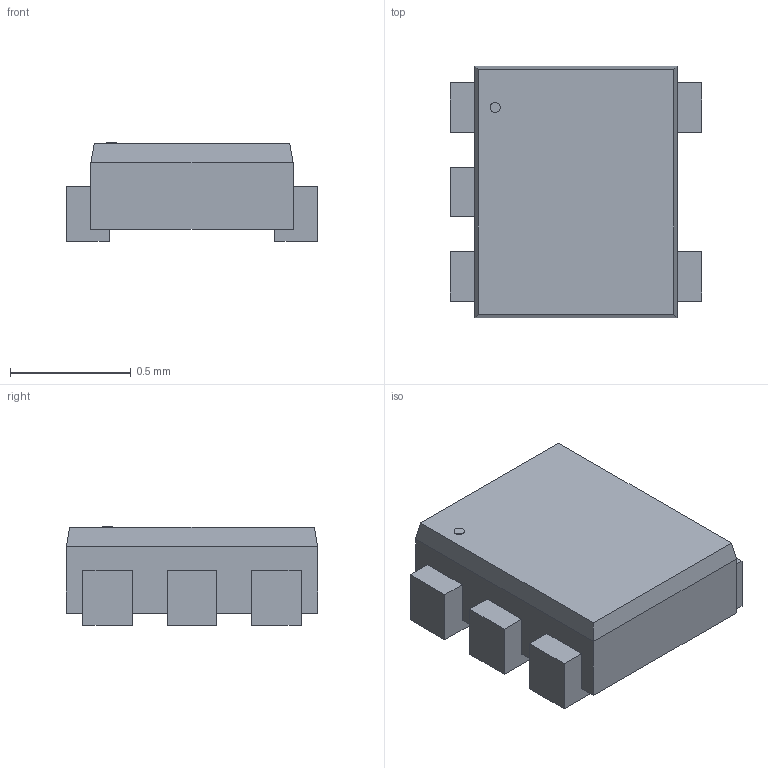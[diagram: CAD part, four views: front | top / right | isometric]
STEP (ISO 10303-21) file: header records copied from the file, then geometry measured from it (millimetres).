
FILE_DESCRIPTION(('STEP AP214'),'1');
FILE_NAME('SOD-953_ONS','2025-03-26T09:04:38',(''),(''),'','','');
FILE_SCHEMA(('AUTOMOTIVE_DESIGN'));
Length unit declared in the file: millimetre
Products named in the file (1): product
Bounding box: 1.04 x 1.04 x 0.41 mm (x, y, z)
Volume: 0.3 mm3; surface area: 4.1 mm2
Topology: 7 solids, 7 shells, 53 faces, 113 edges, 74 vertices
Faces by surface type: plane 52, cylinder 1
Full cylindrical faces by diameter (mm): 0.042 x1
Entity records: 1495 total; most frequent: DIRECTION 224, ORIENTED_EDGE 224, CARTESIAN_POINT 131, EDGE_CURVE 112, LINE 110, VECTOR 110, VERTEX_POINT 74, AXIS2_PLACEMENT_3D 57
